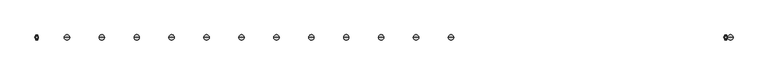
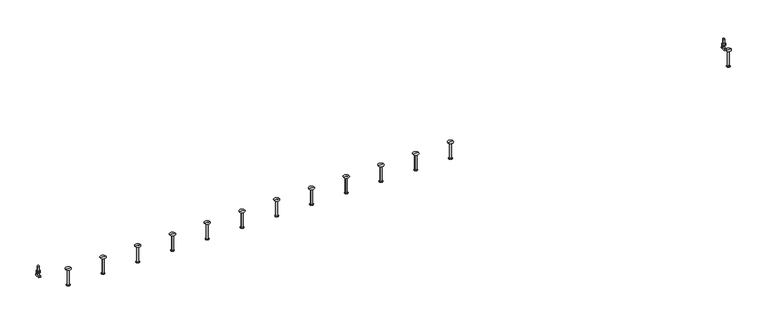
"""IFC4 building model written with IfcOpenShell, lengths in millimetres: fastener geometry, JTA-W JORDAHL® AnchorChannels : JTA-W L=6000 mm."""

from ifc_helpers import new_model, si_unit, point, frame, frame_2d, origin, place, context, project, spatial, polyline, circle_curve, trimmed, segment, composite_curve, outline, extrude, source, transform, mapped, element, save
from ifc_brep_helpers import plane_surface, cylinder_surface, revolved_surface, advanced_brep


def fastener_3b5695ac(model_context):
    return source(origin(), model_context, "Body", "SolidModel", [
        advanced_brep(
        [(3593.0, 0.0, -42.0), (3570.0, 0.0, -42.0), (3616.0, 0.0, -42.0), (3579.0, 0.0, -190.0), (3593.0, 0.0, -190.0), (3607.0, 0.0, -190.0), (3579.0, 0.0, -188.0), (3607.0, 0.0, -188.0), (3585.2, 0.0, -184.4204283), (3600.8, 0.0, -184.4204283), (3585.2, 0.0, -46.0), (3600.8, 0.0, -46.0)],
        [
            (0, 1),
            (1, 2, circle_curve(frame((3593.0, 0.0, -42.0), z_axis=(0.0, 0.0, 1.0), x_axis=(1.0, 0.0, 0.0)), 23.0)),
            (2, 0),
            (2, 1, circle_curve(frame((3593.0, 0.0, -42.0), z_axis=(0.0, 0.0, 1.0), x_axis=(1.0, 0.0, 0.0)), 23.0)),
            (3, 4),
            (4, 5),
            (5, 3, circle_curve(frame((3593.0, 0.0, -190.0), z_axis=(0.0, 0.0, -1.0), x_axis=(1.0, 0.0, 0.0)), 14.0)),
            (3, 5, circle_curve(frame((3593.0, 0.0, -190.0), z_axis=(0.0, 0.0, -1.0), x_axis=(1.0, 0.0, 0.0)), 14.0)),
            (6, 3),
            (5, 7),
            (7, 6, circle_curve(frame((3593.0, 0.0, -188.0), z_axis=(0.0, 0.0, -1.0), x_axis=(1.0, 0.0, 0.0)), 14.0)),
            (6, 7, circle_curve(frame((3593.0, 0.0, -188.0), z_axis=(0.0, 0.0, -1.0), x_axis=(1.0, 0.0, 0.0)), 14.0)),
            (8, 6),
            (7, 9),
            (9, 8, circle_curve(frame((3593.0, 0.0, -184.4204283), z_axis=(0.0, 0.0, -1.0), x_axis=(1.0, 0.0, 0.0)), 7.8)),
            (8, 9, circle_curve(frame((3593.0, 0.0, -184.4204283), z_axis=(0.0, 0.0, -1.0), x_axis=(1.0, 0.0, 0.0)), 7.8)),
            (10, 8),
            (9, 11),
            (11, 10, circle_curve(frame((3593.0, 0.0, -46.0), z_axis=(0.0, 0.0, -1.0), x_axis=(1.0, 0.0, 0.0)), 7.8)),
            (10, 11, circle_curve(frame((3593.0, 0.0, -46.0), z_axis=(0.0, 0.0, -1.0), x_axis=(1.0, 0.0, 0.0)), 7.8)),
            (1, 10),
            (11, 2),
        ],
        [
            plane_surface(frame((3593.0, 0.0, -42.0), z_axis=(0.0, 0.0, 1.0), x_axis=(1.0, 0.0, 0.0))),
            plane_surface(frame((3593.0, 0.0, -190.0), z_axis=(0.0, 0.0, -1.0), x_axis=(1.0, 0.0, 0.0))),
            cylinder_surface(frame((3593.0, 0.0, 2362.3150031), z_axis=(0.0, 0.0, 1.0), x_axis=(1.0, 0.0, 0.0)), 14.0),
            revolved_surface(polyline([(3607.0, 0.0, -188.0), (3600.8, 0.0, -184.4204283)]), (3593.0, 0.0, 2362.3150031), (0.0, 0.0, 1.0)),
            cylinder_surface(frame((3593.0, 0.0, 2362.3150031), z_axis=(0.0, 0.0, 1.0), x_axis=(1.0, 0.0, 0.0)), 7.8),
            revolved_surface(polyline([(3600.8, 0.0, -46.0), (3616.0, 0.0, -42.0)]), (3593.0, 0.0, 2362.3150031), (0.0, 0.0, 1.0)),
        ],
        [
            (0, [[1, 2, 3]]),
            (0, [[-3, 4, -1]]),
            (1, [[5, 6, 7]]),
            (1, [[-6, -5, 8]]),
            (2, [[9, -7, 10, 11]]),
            (2, [[-10, -8, -9, 12]]),
            (3, [[13, -11, 14, 15]]),
            (3, [[-14, -12, -13, 16]]),
            (4, [[17, -15, 18, 19]]),
            (4, [[-18, -16, -17, 20]]),
            (5, [[21, -19, 22, -2]]),
            (5, [[-22, -20, -21, -4]]),
        ],
    ),
        advanced_brep(
        [(3296.5, 0.0, -42.0), (3273.5, 0.0, -42.0), (3319.5, 0.0, -42.0), (3282.5, 0.0, -190.0), (3296.5, 0.0, -190.0), (3310.5, 0.0, -190.0), (3282.5, 0.0, -188.0), (3310.5, 0.0, -188.0), (3288.7, 0.0, -184.4204283), (3304.3, 0.0, -184.4204283), (3288.7, 0.0, -46.0), (3304.3, 0.0, -46.0)],
        [
            (0, 1),
            (1, 2, circle_curve(frame((3296.5, 0.0, -42.0), z_axis=(0.0, 0.0, 1.0), x_axis=(1.0, 0.0, 0.0)), 23.0)),
            (2, 0),
            (2, 1, circle_curve(frame((3296.5, 0.0, -42.0), z_axis=(0.0, 0.0, 1.0), x_axis=(1.0, 0.0, 0.0)), 23.0)),
            (3, 4),
            (4, 5),
            (5, 3, circle_curve(frame((3296.5, 0.0, -190.0), z_axis=(0.0, 0.0, -1.0), x_axis=(1.0, 0.0, 0.0)), 14.0)),
            (3, 5, circle_curve(frame((3296.5, 0.0, -190.0), z_axis=(0.0, 0.0, -1.0), x_axis=(1.0, 0.0, 0.0)), 14.0)),
            (6, 3),
            (5, 7),
            (7, 6, circle_curve(frame((3296.5, 0.0, -188.0), z_axis=(0.0, 0.0, -1.0), x_axis=(1.0, 0.0, 0.0)), 14.0)),
            (6, 7, circle_curve(frame((3296.5, 0.0, -188.0), z_axis=(0.0, 0.0, -1.0), x_axis=(1.0, 0.0, 0.0)), 14.0)),
            (8, 6),
            (7, 9),
            (9, 8, circle_curve(frame((3296.5, 0.0, -184.4204283), z_axis=(0.0, 0.0, -1.0), x_axis=(1.0, 0.0, 0.0)), 7.8)),
            (8, 9, circle_curve(frame((3296.5, 0.0, -184.4204283), z_axis=(0.0, 0.0, -1.0), x_axis=(1.0, 0.0, 0.0)), 7.8)),
            (10, 8),
            (9, 11),
            (11, 10, circle_curve(frame((3296.5, 0.0, -46.0), z_axis=(0.0, 0.0, -1.0), x_axis=(1.0, 0.0, 0.0)), 7.8)),
            (10, 11, circle_curve(frame((3296.5, 0.0, -46.0), z_axis=(0.0, 0.0, -1.0), x_axis=(1.0, 0.0, 0.0)), 7.8)),
            (1, 10),
            (11, 2),
        ],
        [
            plane_surface(frame((3296.5, 0.0, -42.0), z_axis=(0.0, 0.0, 1.0), x_axis=(1.0, 0.0, 0.0))),
            plane_surface(frame((3296.5, 0.0, -190.0), z_axis=(0.0, 0.0, -1.0), x_axis=(1.0, 0.0, 0.0))),
            cylinder_surface(frame((3296.5, 0.0, 2362.3150031), z_axis=(0.0, 0.0, 1.0), x_axis=(1.0, 0.0, 0.0)), 14.0),
            revolved_surface(polyline([(3310.5, 0.0, -188.0), (3304.3, 0.0, -184.4204283)]), (3296.5, 0.0, 2362.3150031), (0.0, 0.0, 1.0)),
            cylinder_surface(frame((3296.5, 0.0, 2362.3150031), z_axis=(0.0, 0.0, 1.0), x_axis=(1.0, 0.0, 0.0)), 7.8),
            revolved_surface(polyline([(3304.3, 0.0, -46.0), (3319.5, 0.0, -42.0)]), (3296.5, 0.0, 2362.3150031), (0.0, 0.0, 1.0)),
        ],
        [
            (0, [[1, 2, 3]]),
            (0, [[-3, 4, -1]]),
            (1, [[5, 6, 7]]),
            (1, [[-6, -5, 8]]),
            (2, [[9, -7, 10, 11]]),
            (2, [[-10, -8, -9, 12]]),
            (3, [[13, -11, 14, 15]]),
            (3, [[-14, -12, -13, 16]]),
            (4, [[17, -15, 18, 19]]),
            (4, [[-18, -16, -17, 20]]),
            (5, [[21, -19, 22, -2]]),
            (5, [[-22, -20, -21, -4]]),
        ],
    ),
        advanced_brep(
        [(3000.0, 0.0, -42.0), (2977.0, 0.0, -42.0), (3023.0, 0.0, -42.0), (2986.0, 0.0, -190.0), (3000.0, 0.0, -190.0), (3014.0, 0.0, -190.0), (2986.0, 0.0, -188.0), (3014.0, 0.0, -188.0), (2992.2, 0.0, -184.4204283), (3007.8, 0.0, -184.4204283), (2992.2, 0.0, -46.0), (3007.8, 0.0, -46.0)],
        [
            (0, 1),
            (1, 2, circle_curve(frame((3000.0, 0.0, -42.0), z_axis=(0.0, 0.0, 1.0), x_axis=(1.0, 0.0, 0.0)), 23.0)),
            (2, 0),
            (2, 1, circle_curve(frame((3000.0, 0.0, -42.0), z_axis=(0.0, 0.0, 1.0), x_axis=(1.0, 0.0, 0.0)), 23.0)),
            (3, 4),
            (4, 5),
            (5, 3, circle_curve(frame((3000.0, 0.0, -190.0), z_axis=(0.0, 0.0, -1.0), x_axis=(1.0, 0.0, 0.0)), 14.0)),
            (3, 5, circle_curve(frame((3000.0, 0.0, -190.0), z_axis=(0.0, 0.0, -1.0), x_axis=(1.0, 0.0, 0.0)), 14.0)),
            (6, 3),
            (5, 7),
            (7, 6, circle_curve(frame((3000.0, 0.0, -188.0), z_axis=(0.0, 0.0, -1.0), x_axis=(1.0, 0.0, 0.0)), 14.0)),
            (6, 7, circle_curve(frame((3000.0, 0.0, -188.0), z_axis=(0.0, 0.0, -1.0), x_axis=(1.0, 0.0, 0.0)), 14.0)),
            (8, 6),
            (7, 9),
            (9, 8, circle_curve(frame((3000.0, 0.0, -184.4204283), z_axis=(0.0, 0.0, -1.0), x_axis=(1.0, 0.0, 0.0)), 7.8)),
            (8, 9, circle_curve(frame((3000.0, 0.0, -184.4204283), z_axis=(0.0, 0.0, -1.0), x_axis=(1.0, 0.0, 0.0)), 7.8)),
            (10, 8),
            (9, 11),
            (11, 10, circle_curve(frame((3000.0, 0.0, -46.0), z_axis=(0.0, 0.0, -1.0), x_axis=(1.0, 0.0, 0.0)), 7.8)),
            (10, 11, circle_curve(frame((3000.0, 0.0, -46.0), z_axis=(0.0, 0.0, -1.0), x_axis=(1.0, 0.0, 0.0)), 7.8)),
            (1, 10),
            (11, 2),
        ],
        [
            plane_surface(frame((3000.0, 0.0, -42.0), z_axis=(0.0, 0.0, 1.0), x_axis=(1.0, 0.0, 0.0))),
            plane_surface(frame((3000.0, 0.0, -190.0), z_axis=(0.0, 0.0, -1.0), x_axis=(1.0, 0.0, 0.0))),
            cylinder_surface(frame((3000.0, 0.0, 2362.3150031), z_axis=(0.0, 0.0, 1.0), x_axis=(1.0, 0.0, 0.0)), 14.0),
            revolved_surface(polyline([(3014.0, 0.0, -188.0), (3007.8, 0.0, -184.4204283)]), (3000.0, 0.0, 2362.3150031), (0.0, 0.0, 1.0)),
            cylinder_surface(frame((3000.0, 0.0, 2362.3150031), z_axis=(0.0, 0.0, 1.0), x_axis=(1.0, 0.0, 0.0)), 7.8),
            revolved_surface(polyline([(3007.8, 0.0, -46.0), (3023.0, 0.0, -42.0)]), (3000.0, 0.0, 2362.3150031), (0.0, 0.0, 1.0)),
        ],
        [
            (0, [[1, 2, 3]]),
            (0, [[-3, 4, -1]]),
            (1, [[5, 6, 7]]),
            (1, [[-6, -5, 8]]),
            (2, [[9, -7, 10, 11]]),
            (2, [[-10, -8, -9, 12]]),
            (3, [[13, -11, 14, 15]]),
            (3, [[-14, -12, -13, 16]]),
            (4, [[17, -15, 18, 19]]),
            (4, [[-18, -16, -17, 20]]),
            (5, [[21, -19, 22, -2]]),
            (5, [[-22, -20, -21, -4]]),
        ],
    ),
        advanced_brep(
        [(2703.5, 0.0, -42.0), (2680.5, 0.0, -42.0), (2726.5, 0.0, -42.0), (2689.5, 0.0, -190.0), (2703.5, 0.0, -190.0), (2717.5, 0.0, -190.0), (2689.5, 0.0, -188.0), (2717.5, 0.0, -188.0), (2695.7, 0.0, -184.4204283), (2711.3, 0.0, -184.4204283), (2695.7, 0.0, -46.0), (2711.3, 0.0, -46.0)],
        [
            (0, 1),
            (1, 2, circle_curve(frame((2703.5, 0.0, -42.0), z_axis=(0.0, 0.0, 1.0), x_axis=(1.0, 0.0, 0.0)), 23.0)),
            (2, 0),
            (2, 1, circle_curve(frame((2703.5, 0.0, -42.0), z_axis=(0.0, 0.0, 1.0), x_axis=(1.0, 0.0, 0.0)), 23.0)),
            (3, 4),
            (4, 5),
            (5, 3, circle_curve(frame((2703.5, 0.0, -190.0), z_axis=(0.0, 0.0, -1.0), x_axis=(1.0, 0.0, 0.0)), 14.0)),
            (3, 5, circle_curve(frame((2703.5, 0.0, -190.0), z_axis=(0.0, 0.0, -1.0), x_axis=(1.0, 0.0, 0.0)), 14.0)),
            (6, 3),
            (5, 7),
            (7, 6, circle_curve(frame((2703.5, 0.0, -188.0), z_axis=(0.0, 0.0, -1.0), x_axis=(1.0, 0.0, 0.0)), 14.0)),
            (6, 7, circle_curve(frame((2703.5, 0.0, -188.0), z_axis=(0.0, 0.0, -1.0), x_axis=(1.0, 0.0, 0.0)), 14.0)),
            (8, 6),
            (7, 9),
            (9, 8, circle_curve(frame((2703.5, 0.0, -184.4204283), z_axis=(0.0, 0.0, -1.0), x_axis=(1.0, 0.0, 0.0)), 7.8)),
            (8, 9, circle_curve(frame((2703.5, 0.0, -184.4204283), z_axis=(0.0, 0.0, -1.0), x_axis=(1.0, 0.0, 0.0)), 7.8)),
            (10, 8),
            (9, 11),
            (11, 10, circle_curve(frame((2703.5, 0.0, -46.0), z_axis=(0.0, 0.0, -1.0), x_axis=(1.0, 0.0, 0.0)), 7.8)),
            (10, 11, circle_curve(frame((2703.5, 0.0, -46.0), z_axis=(0.0, 0.0, -1.0), x_axis=(1.0, 0.0, 0.0)), 7.8)),
            (1, 10),
            (11, 2),
        ],
        [
            plane_surface(frame((2703.5, 0.0, -42.0), z_axis=(0.0, 0.0, 1.0), x_axis=(1.0, 0.0, 0.0))),
            plane_surface(frame((2703.5, 0.0, -190.0), z_axis=(0.0, 0.0, -1.0), x_axis=(1.0, 0.0, 0.0))),
            cylinder_surface(frame((2703.5, 0.0, 2362.3150031), z_axis=(0.0, 0.0, 1.0), x_axis=(1.0, 0.0, 0.0)), 14.0),
            revolved_surface(polyline([(2717.5, 0.0, -188.0), (2711.3, 0.0, -184.4204283)]), (2703.5, 0.0, 2362.3150031), (0.0, 0.0, 1.0)),
            cylinder_surface(frame((2703.5, 0.0, 2362.3150031), z_axis=(0.0, 0.0, 1.0), x_axis=(1.0, 0.0, 0.0)), 7.8),
            revolved_surface(polyline([(2711.3, 0.0, -46.0), (2726.5, 0.0, -42.0)]), (2703.5, 0.0, 2362.3150031), (0.0, 0.0, 1.0)),
        ],
        [
            (0, [[1, 2, 3]]),
            (0, [[-3, 4, -1]]),
            (1, [[5, 6, 7]]),
            (1, [[-6, -5, 8]]),
            (2, [[9, -7, 10, 11]]),
            (2, [[-10, -8, -9, 12]]),
            (3, [[13, -11, 14, 15]]),
            (3, [[-14, -12, -13, 16]]),
            (4, [[17, -15, 18, 19]]),
            (4, [[-18, -16, -17, 20]]),
            (5, [[21, -19, 22, -2]]),
            (5, [[-22, -20, -21, -4]]),
        ],
    ),
        advanced_brep(
        [(2407.0, 0.0, -42.0), (2384.0, 0.0, -42.0), (2430.0, 0.0, -42.0), (2393.0, 0.0, -190.0), (2407.0, 0.0, -190.0), (2421.0, 0.0, -190.0), (2393.0, 0.0, -188.0), (2421.0, 0.0, -188.0), (2399.2, 0.0, -184.4204283), (2414.8, 0.0, -184.4204283), (2399.2, 0.0, -46.0), (2414.8, 0.0, -46.0)],
        [
            (0, 1),
            (1, 2, circle_curve(frame((2407.0, 0.0, -42.0), z_axis=(0.0, 0.0, 1.0), x_axis=(1.0, 0.0, 0.0)), 23.0)),
            (2, 0),
            (2, 1, circle_curve(frame((2407.0, 0.0, -42.0), z_axis=(0.0, 0.0, 1.0), x_axis=(1.0, 0.0, 0.0)), 23.0)),
            (3, 4),
            (4, 5),
            (5, 3, circle_curve(frame((2407.0, 0.0, -190.0), z_axis=(0.0, 0.0, -1.0), x_axis=(1.0, 0.0, 0.0)), 14.0)),
            (3, 5, circle_curve(frame((2407.0, 0.0, -190.0), z_axis=(0.0, 0.0, -1.0), x_axis=(1.0, 0.0, 0.0)), 14.0)),
            (6, 3),
            (5, 7),
            (7, 6, circle_curve(frame((2407.0, 0.0, -188.0), z_axis=(0.0, 0.0, -1.0), x_axis=(1.0, 0.0, 0.0)), 14.0)),
            (6, 7, circle_curve(frame((2407.0, 0.0, -188.0), z_axis=(0.0, 0.0, -1.0), x_axis=(1.0, 0.0, 0.0)), 14.0)),
            (8, 6),
            (7, 9),
            (9, 8, circle_curve(frame((2407.0, 0.0, -184.4204283), z_axis=(0.0, 0.0, -1.0), x_axis=(1.0, 0.0, 0.0)), 7.8)),
            (8, 9, circle_curve(frame((2407.0, 0.0, -184.4204283), z_axis=(0.0, 0.0, -1.0), x_axis=(1.0, 0.0, 0.0)), 7.8)),
            (10, 8),
            (9, 11),
            (11, 10, circle_curve(frame((2407.0, 0.0, -46.0), z_axis=(0.0, 0.0, -1.0), x_axis=(1.0, 0.0, 0.0)), 7.8)),
            (10, 11, circle_curve(frame((2407.0, 0.0, -46.0), z_axis=(0.0, 0.0, -1.0), x_axis=(1.0, 0.0, 0.0)), 7.8)),
            (1, 10),
            (11, 2),
        ],
        [
            plane_surface(frame((2407.0, 0.0, -42.0), z_axis=(0.0, 0.0, 1.0), x_axis=(1.0, 0.0, 0.0))),
            plane_surface(frame((2407.0, 0.0, -190.0), z_axis=(0.0, 0.0, -1.0), x_axis=(1.0, 0.0, 0.0))),
            cylinder_surface(frame((2407.0, 0.0, 2362.3150031), z_axis=(0.0, 0.0, 1.0), x_axis=(1.0, 0.0, 0.0)), 14.0),
            revolved_surface(polyline([(2421.0, 0.0, -188.0), (2414.8, 0.0, -184.4204283)]), (2407.0, 0.0, 2362.3150031), (0.0, 0.0, 1.0)),
            cylinder_surface(frame((2407.0, 0.0, 2362.3150031), z_axis=(0.0, 0.0, 1.0), x_axis=(1.0, 0.0, 0.0)), 7.8),
            revolved_surface(polyline([(2414.8, 0.0, -46.0), (2430.0, 0.0, -42.0)]), (2407.0, 0.0, 2362.3150031), (0.0, 0.0, 1.0)),
        ],
        [
            (0, [[1, 2, 3]]),
            (0, [[-3, 4, -1]]),
            (1, [[5, 6, 7]]),
            (1, [[-6, -5, 8]]),
            (2, [[9, -7, 10, 11]]),
            (2, [[-10, -8, -9, 12]]),
            (3, [[13, -11, 14, 15]]),
            (3, [[-14, -12, -13, 16]]),
            (4, [[17, -15, 18, 19]]),
            (4, [[-18, -16, -17, 20]]),
            (5, [[21, -19, 22, -2]]),
            (5, [[-22, -20, -21, -4]]),
        ],
    ),
        advanced_brep(
        [(2110.5, 0.0, -42.0), (2087.5, 0.0, -42.0), (2133.5, 0.0, -42.0), (2096.5, 0.0, -190.0), (2110.5, 0.0, -190.0), (2124.5, 0.0, -190.0), (2096.5, 0.0, -188.0), (2124.5, 0.0, -188.0), (2102.7, 0.0, -184.4204283), (2118.3, 0.0, -184.4204283), (2102.7, 0.0, -46.0), (2118.3, 0.0, -46.0)],
        [
            (0, 1),
            (1, 2, circle_curve(frame((2110.5, 0.0, -42.0), z_axis=(0.0, 0.0, 1.0), x_axis=(1.0, 0.0, 0.0)), 23.0)),
            (2, 0),
            (2, 1, circle_curve(frame((2110.5, 0.0, -42.0), z_axis=(0.0, 0.0, 1.0), x_axis=(1.0, 0.0, 0.0)), 23.0)),
            (3, 4),
            (4, 5),
            (5, 3, circle_curve(frame((2110.5, 0.0, -190.0), z_axis=(0.0, 0.0, -1.0), x_axis=(1.0, 0.0, 0.0)), 14.0)),
            (3, 5, circle_curve(frame((2110.5, 0.0, -190.0), z_axis=(0.0, 0.0, -1.0), x_axis=(1.0, 0.0, 0.0)), 14.0)),
            (6, 3),
            (5, 7),
            (7, 6, circle_curve(frame((2110.5, 0.0, -188.0), z_axis=(0.0, 0.0, -1.0), x_axis=(1.0, 0.0, 0.0)), 14.0)),
            (6, 7, circle_curve(frame((2110.5, 0.0, -188.0), z_axis=(0.0, 0.0, -1.0), x_axis=(1.0, 0.0, 0.0)), 14.0)),
            (8, 6),
            (7, 9),
            (9, 8, circle_curve(frame((2110.5, 0.0, -184.4204283), z_axis=(0.0, 0.0, -1.0), x_axis=(1.0, 0.0, 0.0)), 7.8)),
            (8, 9, circle_curve(frame((2110.5, 0.0, -184.4204283), z_axis=(0.0, 0.0, -1.0), x_axis=(1.0, 0.0, 0.0)), 7.8)),
            (10, 8),
            (9, 11),
            (11, 10, circle_curve(frame((2110.5, 0.0, -46.0), z_axis=(0.0, 0.0, -1.0), x_axis=(1.0, 0.0, 0.0)), 7.8)),
            (10, 11, circle_curve(frame((2110.5, 0.0, -46.0), z_axis=(0.0, 0.0, -1.0), x_axis=(1.0, 0.0, 0.0)), 7.8)),
            (1, 10),
            (11, 2),
        ],
        [
            plane_surface(frame((2110.5, 0.0, -42.0), z_axis=(0.0, 0.0, 1.0), x_axis=(1.0, 0.0, 0.0))),
            plane_surface(frame((2110.5, 0.0, -190.0), z_axis=(0.0, 0.0, -1.0), x_axis=(1.0, 0.0, 0.0))),
            cylinder_surface(frame((2110.5, 0.0, 2362.3150031), z_axis=(0.0, 0.0, 1.0), x_axis=(1.0, 0.0, 0.0)), 14.0),
            revolved_surface(polyline([(2124.5, 0.0, -188.0), (2118.3, 0.0, -184.4204283)]), (2110.5, 0.0, 2362.3150031), (0.0, 0.0, 1.0)),
            cylinder_surface(frame((2110.5, 0.0, 2362.3150031), z_axis=(0.0, 0.0, 1.0), x_axis=(1.0, 0.0, 0.0)), 7.8),
            revolved_surface(polyline([(2118.3, 0.0, -46.0), (2133.5, 0.0, -42.0)]), (2110.5, 0.0, 2362.3150031), (0.0, 0.0, 1.0)),
        ],
        [
            (0, [[1, 2, 3]]),
            (0, [[-3, 4, -1]]),
            (1, [[5, 6, 7]]),
            (1, [[-6, -5, 8]]),
            (2, [[9, -7, 10, 11]]),
            (2, [[-10, -8, -9, 12]]),
            (3, [[13, -11, 14, 15]]),
            (3, [[-14, -12, -13, 16]]),
            (4, [[17, -15, 18, 19]]),
            (4, [[-18, -16, -17, 20]]),
            (5, [[21, -19, 22, -2]]),
            (5, [[-22, -20, -21, -4]]),
        ],
    ),
        advanced_brep(
        [(1814.0, 0.0, -42.0), (1791.0, 0.0, -42.0), (1837.0, 0.0, -42.0), (1800.0, 0.0, -190.0), (1814.0, 0.0, -190.0), (1828.0, 0.0, -190.0), (1800.0, 0.0, -188.0), (1828.0, 0.0, -188.0), (1806.2, 0.0, -184.4204283), (1821.8, 0.0, -184.4204283), (1806.2, 0.0, -46.0), (1821.8, 0.0, -46.0)],
        [
            (0, 1),
            (1, 2, circle_curve(frame((1814.0, 0.0, -42.0), z_axis=(0.0, 0.0, 1.0), x_axis=(1.0, 0.0, 0.0)), 23.0)),
            (2, 0),
            (2, 1, circle_curve(frame((1814.0, 0.0, -42.0), z_axis=(0.0, 0.0, 1.0), x_axis=(1.0, 0.0, 0.0)), 23.0)),
            (3, 4),
            (4, 5),
            (5, 3, circle_curve(frame((1814.0, 0.0, -190.0), z_axis=(0.0, 0.0, -1.0), x_axis=(1.0, 0.0, 0.0)), 14.0)),
            (3, 5, circle_curve(frame((1814.0, 0.0, -190.0), z_axis=(0.0, 0.0, -1.0), x_axis=(1.0, 0.0, 0.0)), 14.0)),
            (6, 3),
            (5, 7),
            (7, 6, circle_curve(frame((1814.0, 0.0, -188.0), z_axis=(0.0, 0.0, -1.0), x_axis=(1.0, 0.0, 0.0)), 14.0)),
            (6, 7, circle_curve(frame((1814.0, 0.0, -188.0), z_axis=(0.0, 0.0, -1.0), x_axis=(1.0, 0.0, 0.0)), 14.0)),
            (8, 6),
            (7, 9),
            (9, 8, circle_curve(frame((1814.0, 0.0, -184.4204283), z_axis=(0.0, 0.0, -1.0), x_axis=(1.0, 0.0, 0.0)), 7.8)),
            (8, 9, circle_curve(frame((1814.0, 0.0, -184.4204283), z_axis=(0.0, 0.0, -1.0), x_axis=(1.0, 0.0, 0.0)), 7.8)),
            (10, 8),
            (9, 11),
            (11, 10, circle_curve(frame((1814.0, 0.0, -46.0), z_axis=(0.0, 0.0, -1.0), x_axis=(1.0, 0.0, 0.0)), 7.8)),
            (10, 11, circle_curve(frame((1814.0, 0.0, -46.0), z_axis=(0.0, 0.0, -1.0), x_axis=(1.0, 0.0, 0.0)), 7.8)),
            (1, 10),
            (11, 2),
        ],
        [
            plane_surface(frame((1814.0, 0.0, -42.0), z_axis=(0.0, 0.0, 1.0), x_axis=(1.0, 0.0, 0.0))),
            plane_surface(frame((1814.0, 0.0, -190.0), z_axis=(0.0, 0.0, -1.0), x_axis=(1.0, 0.0, 0.0))),
            cylinder_surface(frame((1814.0, 0.0, 2362.3150031), z_axis=(0.0, 0.0, 1.0), x_axis=(1.0, 0.0, 0.0)), 14.0),
            revolved_surface(polyline([(1828.0, 0.0, -188.0), (1821.8, 0.0, -184.4204283)]), (1814.0, 0.0, 2362.3150031), (0.0, 0.0, 1.0)),
            cylinder_surface(frame((1814.0, 0.0, 2362.3150031), z_axis=(0.0, 0.0, 1.0), x_axis=(1.0, 0.0, 0.0)), 7.8),
            revolved_surface(polyline([(1821.8, 0.0, -46.0), (1837.0, 0.0, -42.0)]), (1814.0, 0.0, 2362.3150031), (0.0, 0.0, 1.0)),
        ],
        [
            (0, [[1, 2, 3]]),
            (0, [[-3, 4, -1]]),
            (1, [[5, 6, 7]]),
            (1, [[-6, -5, 8]]),
            (2, [[9, -7, 10, 11]]),
            (2, [[-10, -8, -9, 12]]),
            (3, [[13, -11, 14, 15]]),
            (3, [[-14, -12, -13, 16]]),
            (4, [[17, -15, 18, 19]]),
            (4, [[-18, -16, -17, 20]]),
            (5, [[21, -19, 22, -2]]),
            (5, [[-22, -20, -21, -4]]),
        ],
    ),
        advanced_brep(
        [(1517.5, 0.0, -42.0), (1494.5, 0.0, -42.0), (1540.5, 0.0, -42.0), (1503.5, 0.0, -190.0), (1517.5, 0.0, -190.0), (1531.5, 0.0, -190.0), (1503.5, 0.0, -188.0), (1531.5, 0.0, -188.0), (1509.7, 0.0, -184.4204283), (1525.3, 0.0, -184.4204283), (1509.7, 0.0, -46.0), (1525.3, 0.0, -46.0)],
        [
            (0, 1),
            (1, 2, circle_curve(frame((1517.5, 0.0, -42.0), z_axis=(0.0, 0.0, 1.0), x_axis=(1.0, 0.0, 0.0)), 23.0)),
            (2, 0),
            (2, 1, circle_curve(frame((1517.5, 0.0, -42.0), z_axis=(0.0, 0.0, 1.0), x_axis=(1.0, 0.0, 0.0)), 23.0)),
            (3, 4),
            (4, 5),
            (5, 3, circle_curve(frame((1517.5, 0.0, -190.0), z_axis=(0.0, 0.0, -1.0), x_axis=(1.0, 0.0, 0.0)), 14.0)),
            (3, 5, circle_curve(frame((1517.5, 0.0, -190.0), z_axis=(0.0, 0.0, -1.0), x_axis=(1.0, 0.0, 0.0)), 14.0)),
            (6, 3),
            (5, 7),
            (7, 6, circle_curve(frame((1517.5, 0.0, -188.0), z_axis=(0.0, 0.0, -1.0), x_axis=(1.0, 0.0, 0.0)), 14.0)),
            (6, 7, circle_curve(frame((1517.5, 0.0, -188.0), z_axis=(0.0, 0.0, -1.0), x_axis=(1.0, 0.0, 0.0)), 14.0)),
            (8, 6),
            (7, 9),
            (9, 8, circle_curve(frame((1517.5, 0.0, -184.4204283), z_axis=(0.0, 0.0, -1.0), x_axis=(1.0, 0.0, 0.0)), 7.8)),
            (8, 9, circle_curve(frame((1517.5, 0.0, -184.4204283), z_axis=(0.0, 0.0, -1.0), x_axis=(1.0, 0.0, 0.0)), 7.8)),
            (10, 8),
            (9, 11),
            (11, 10, circle_curve(frame((1517.5, 0.0, -46.0), z_axis=(0.0, 0.0, -1.0), x_axis=(1.0, 0.0, 0.0)), 7.8)),
            (10, 11, circle_curve(frame((1517.5, 0.0, -46.0), z_axis=(0.0, 0.0, -1.0), x_axis=(1.0, 0.0, 0.0)), 7.8)),
            (1, 10),
            (11, 2),
        ],
        [
            plane_surface(frame((1517.5, 0.0, -42.0), z_axis=(0.0, 0.0, 1.0), x_axis=(1.0, 0.0, 0.0))),
            plane_surface(frame((1517.5, 0.0, -190.0), z_axis=(0.0, 0.0, -1.0), x_axis=(1.0, 0.0, 0.0))),
            cylinder_surface(frame((1517.5, 0.0, 2362.3150031), z_axis=(0.0, 0.0, 1.0), x_axis=(1.0, 0.0, 0.0)), 14.0),
            revolved_surface(polyline([(1531.5, 0.0, -188.0), (1525.3, 0.0, -184.4204283)]), (1517.5, 0.0, 2362.3150031), (0.0, 0.0, 1.0)),
            cylinder_surface(frame((1517.5, 0.0, 2362.3150031), z_axis=(0.0, 0.0, 1.0), x_axis=(1.0, 0.0, 0.0)), 7.8),
            revolved_surface(polyline([(1525.3, 0.0, -46.0), (1540.5, 0.0, -42.0)]), (1517.5, 0.0, 2362.3150031), (0.0, 0.0, 1.0)),
        ],
        [
            (0, [[1, 2, 3]]),
            (0, [[-3, 4, -1]]),
            (1, [[5, 6, 7]]),
            (1, [[-6, -5, 8]]),
            (2, [[9, -7, 10, 11]]),
            (2, [[-10, -8, -9, 12]]),
            (3, [[13, -11, 14, 15]]),
            (3, [[-14, -12, -13, 16]]),
            (4, [[17, -15, 18, 19]]),
            (4, [[-18, -16, -17, 20]]),
            (5, [[21, -19, 22, -2]]),
            (5, [[-22, -20, -21, -4]]),
        ],
    ),
        advanced_brep(
        [(1221.0, 0.0, -42.0), (1198.0, 0.0, -42.0), (1244.0, 0.0, -42.0), (1207.0, 0.0, -190.0), (1221.0, 0.0, -190.0), (1235.0, 0.0, -190.0), (1207.0, 0.0, -188.0), (1235.0, 0.0, -188.0), (1213.2, 0.0, -184.4204283), (1228.8, 0.0, -184.4204283), (1213.2, 0.0, -46.0), (1228.8, 0.0, -46.0)],
        [
            (0, 1),
            (1, 2, circle_curve(frame((1221.0, 0.0, -42.0), z_axis=(0.0, 0.0, 1.0), x_axis=(1.0, 0.0, 0.0)), 23.0)),
            (2, 0),
            (2, 1, circle_curve(frame((1221.0, 0.0, -42.0), z_axis=(0.0, 0.0, 1.0), x_axis=(1.0, 0.0, 0.0)), 23.0)),
            (3, 4),
            (4, 5),
            (5, 3, circle_curve(frame((1221.0, 0.0, -190.0), z_axis=(0.0, 0.0, -1.0), x_axis=(1.0, 0.0, 0.0)), 14.0)),
            (3, 5, circle_curve(frame((1221.0, 0.0, -190.0), z_axis=(0.0, 0.0, -1.0), x_axis=(1.0, 0.0, 0.0)), 14.0)),
            (6, 3),
            (5, 7),
            (7, 6, circle_curve(frame((1221.0, 0.0, -188.0), z_axis=(0.0, 0.0, -1.0), x_axis=(1.0, 0.0, 0.0)), 14.0)),
            (6, 7, circle_curve(frame((1221.0, 0.0, -188.0), z_axis=(0.0, 0.0, -1.0), x_axis=(1.0, 0.0, 0.0)), 14.0)),
            (8, 6),
            (7, 9),
            (9, 8, circle_curve(frame((1221.0, 0.0, -184.4204283), z_axis=(0.0, 0.0, -1.0), x_axis=(1.0, 0.0, 0.0)), 7.8)),
            (8, 9, circle_curve(frame((1221.0, 0.0, -184.4204283), z_axis=(0.0, 0.0, -1.0), x_axis=(1.0, 0.0, 0.0)), 7.8)),
            (10, 8),
            (9, 11),
            (11, 10, circle_curve(frame((1221.0, 0.0, -46.0), z_axis=(0.0, 0.0, -1.0), x_axis=(1.0, 0.0, 0.0)), 7.8)),
            (10, 11, circle_curve(frame((1221.0, 0.0, -46.0), z_axis=(0.0, 0.0, -1.0), x_axis=(1.0, 0.0, 0.0)), 7.8)),
            (1, 10),
            (11, 2),
        ],
        [
            plane_surface(frame((1221.0, 0.0, -42.0), z_axis=(0.0, 0.0, 1.0), x_axis=(1.0, 0.0, 0.0))),
            plane_surface(frame((1221.0, 0.0, -190.0), z_axis=(0.0, 0.0, -1.0), x_axis=(1.0, 0.0, 0.0))),
            cylinder_surface(frame((1221.0, 0.0, 2362.3150031), z_axis=(0.0, 0.0, 1.0), x_axis=(1.0, 0.0, 0.0)), 14.0),
            revolved_surface(polyline([(1235.0, 0.0, -188.0), (1228.8, 0.0, -184.4204283)]), (1221.0, 0.0, 2362.3150031), (0.0, 0.0, 1.0)),
            cylinder_surface(frame((1221.0, 0.0, 2362.3150031), z_axis=(0.0, 0.0, 1.0), x_axis=(1.0, 0.0, 0.0)), 7.8),
            revolved_surface(polyline([(1228.8, 0.0, -46.0), (1244.0, 0.0, -42.0)]), (1221.0, 0.0, 2362.3150031), (0.0, 0.0, 1.0)),
        ],
        [
            (0, [[1, 2, 3]]),
            (0, [[-3, 4, -1]]),
            (1, [[5, 6, 7]]),
            (1, [[-6, -5, 8]]),
            (2, [[9, -7, 10, 11]]),
            (2, [[-10, -8, -9, 12]]),
            (3, [[13, -11, 14, 15]]),
            (3, [[-14, -12, -13, 16]]),
            (4, [[17, -15, 18, 19]]),
            (4, [[-18, -16, -17, 20]]),
            (5, [[21, -19, 22, -2]]),
            (5, [[-22, -20, -21, -4]]),
        ],
    ),
        advanced_brep(
        [(924.5, 0.0, -42.0), (901.5, 0.0, -42.0), (947.5, 0.0, -42.0), (910.5, 0.0, -190.0), (924.5, 0.0, -190.0), (938.5, 0.0, -190.0), (910.5, 0.0, -188.0), (938.5, 0.0, -188.0), (916.7, 0.0, -184.4204283), (932.3, 0.0, -184.4204283), (916.7, 0.0, -46.0), (932.3, 0.0, -46.0)],
        [
            (0, 1),
            (1, 2, circle_curve(frame((924.5, 0.0, -42.0), z_axis=(0.0, 0.0, 1.0), x_axis=(1.0, 0.0, 0.0)), 23.0)),
            (2, 0),
            (2, 1, circle_curve(frame((924.5, 0.0, -42.0), z_axis=(0.0, 0.0, 1.0), x_axis=(1.0, 0.0, 0.0)), 23.0)),
            (3, 4),
            (4, 5),
            (5, 3, circle_curve(frame((924.5, 0.0, -190.0), z_axis=(0.0, 0.0, -1.0), x_axis=(1.0, 0.0, 0.0)), 14.0)),
            (3, 5, circle_curve(frame((924.5, 0.0, -190.0), z_axis=(0.0, 0.0, -1.0), x_axis=(1.0, 0.0, 0.0)), 14.0)),
            (6, 3),
            (5, 7),
            (7, 6, circle_curve(frame((924.5, 0.0, -188.0), z_axis=(0.0, 0.0, -1.0), x_axis=(1.0, 0.0, 0.0)), 14.0)),
            (6, 7, circle_curve(frame((924.5, 0.0, -188.0), z_axis=(0.0, 0.0, -1.0), x_axis=(1.0, 0.0, 0.0)), 14.0)),
            (8, 6),
            (7, 9),
            (9, 8, circle_curve(frame((924.5, 0.0, -184.4204283), z_axis=(0.0, 0.0, -1.0), x_axis=(1.0, 0.0, 0.0)), 7.8)),
            (8, 9, circle_curve(frame((924.5, 0.0, -184.4204283), z_axis=(0.0, 0.0, -1.0), x_axis=(1.0, 0.0, 0.0)), 7.8)),
            (10, 8),
            (9, 11),
            (11, 10, circle_curve(frame((924.5, 0.0, -46.0), z_axis=(0.0, 0.0, -1.0), x_axis=(1.0, 0.0, 0.0)), 7.8)),
            (10, 11, circle_curve(frame((924.5, 0.0, -46.0), z_axis=(0.0, 0.0, -1.0), x_axis=(1.0, 0.0, 0.0)), 7.8)),
            (1, 10),
            (11, 2),
        ],
        [
            plane_surface(frame((924.5, 0.0, -42.0), z_axis=(0.0, 0.0, 1.0), x_axis=(1.0, 0.0, 0.0))),
            plane_surface(frame((924.5, 0.0, -190.0), z_axis=(0.0, 0.0, -1.0), x_axis=(1.0, 0.0, 0.0))),
            cylinder_surface(frame((924.5, 0.0, 2362.3150031), z_axis=(0.0, 0.0, 1.0), x_axis=(1.0, 0.0, 0.0)), 14.0),
            revolved_surface(polyline([(938.5, 0.0, -188.0), (932.3, 0.0, -184.4204283)]), (924.5, 0.0, 2362.3150031), (0.0, 0.0, 1.0)),
            cylinder_surface(frame((924.5, 0.0, 2362.3150031), z_axis=(0.0, 0.0, 1.0), x_axis=(1.0, 0.0, 0.0)), 7.8),
            revolved_surface(polyline([(932.3, 0.0, -46.0), (947.5, 0.0, -42.0)]), (924.5, 0.0, 2362.3150031), (0.0, 0.0, 1.0)),
        ],
        [
            (0, [[1, 2, 3]]),
            (0, [[-3, 4, -1]]),
            (1, [[5, 6, 7]]),
            (1, [[-6, -5, 8]]),
            (2, [[9, -7, 10, 11]]),
            (2, [[-10, -8, -9, 12]]),
            (3, [[13, -11, 14, 15]]),
            (3, [[-14, -12, -13, 16]]),
            (4, [[17, -15, 18, 19]]),
            (4, [[-18, -16, -17, 20]]),
            (5, [[21, -19, 22, -2]]),
            (5, [[-22, -20, -21, -4]]),
        ],
    ),
        advanced_brep(
        [(628.0, 0.0, -42.0), (605.0, 0.0, -42.0), (651.0, 0.0, -42.0), (614.0, 0.0, -190.0), (628.0, 0.0, -190.0), (642.0, 0.0, -190.0), (614.0, 0.0, -188.0), (642.0, 0.0, -188.0), (620.2, 0.0, -184.4204283), (635.8, 0.0, -184.4204283), (620.2, 0.0, -46.0), (635.8, 0.0, -46.0)],
        [
            (0, 1),
            (1, 2, circle_curve(frame((628.0, 0.0, -42.0), z_axis=(0.0, 0.0, 1.0), x_axis=(1.0, 0.0, 0.0)), 23.0)),
            (2, 0),
            (2, 1, circle_curve(frame((628.0, 0.0, -42.0), z_axis=(0.0, 0.0, 1.0), x_axis=(1.0, 0.0, 0.0)), 23.0)),
            (3, 4),
            (4, 5),
            (5, 3, circle_curve(frame((628.0, 0.0, -190.0), z_axis=(0.0, 0.0, -1.0), x_axis=(1.0, 0.0, 0.0)), 14.0)),
            (3, 5, circle_curve(frame((628.0, 0.0, -190.0), z_axis=(0.0, 0.0, -1.0), x_axis=(1.0, 0.0, 0.0)), 14.0)),
            (6, 3),
            (5, 7),
            (7, 6, circle_curve(frame((628.0, 0.0, -188.0), z_axis=(0.0, 0.0, -1.0), x_axis=(1.0, 0.0, 0.0)), 14.0)),
            (6, 7, circle_curve(frame((628.0, 0.0, -188.0), z_axis=(0.0, 0.0, -1.0), x_axis=(1.0, 0.0, 0.0)), 14.0)),
            (8, 6),
            (7, 9),
            (9, 8, circle_curve(frame((628.0, 0.0, -184.4204283), z_axis=(0.0, 0.0, -1.0), x_axis=(1.0, 0.0, 0.0)), 7.8)),
            (8, 9, circle_curve(frame((628.0, 0.0, -184.4204283), z_axis=(0.0, 0.0, -1.0), x_axis=(1.0, 0.0, 0.0)), 7.8)),
            (10, 8),
            (9, 11),
            (11, 10, circle_curve(frame((628.0, 0.0, -46.0), z_axis=(0.0, 0.0, -1.0), x_axis=(1.0, 0.0, 0.0)), 7.8)),
            (10, 11, circle_curve(frame((628.0, 0.0, -46.0), z_axis=(0.0, 0.0, -1.0), x_axis=(1.0, 0.0, 0.0)), 7.8)),
            (1, 10),
            (11, 2),
        ],
        [
            plane_surface(frame((628.0, 0.0, -42.0), z_axis=(0.0, 0.0, 1.0), x_axis=(1.0, 0.0, 0.0))),
            plane_surface(frame((628.0, 0.0, -190.0), z_axis=(0.0, 0.0, -1.0), x_axis=(1.0, 0.0, 0.0))),
            cylinder_surface(frame((628.0, 0.0, 2362.3150031), z_axis=(0.0, 0.0, 1.0), x_axis=(1.0, 0.0, 0.0)), 14.0),
            revolved_surface(polyline([(642.0, 0.0, -188.0), (635.8, 0.0, -184.4204283)]), (628.0, 0.0, 2362.3150031), (0.0, 0.0, 1.0)),
            cylinder_surface(frame((628.0, 0.0, 2362.3150031), z_axis=(0.0, 0.0, 1.0), x_axis=(1.0, 0.0, 0.0)), 7.8),
            revolved_surface(polyline([(635.8, 0.0, -46.0), (651.0, 0.0, -42.0)]), (628.0, 0.0, 2362.3150031), (0.0, 0.0, 1.0)),
        ],
        [
            (0, [[1, 2, 3]]),
            (0, [[-3, 4, -1]]),
            (1, [[5, 6, 7]]),
            (1, [[-6, -5, 8]]),
            (2, [[9, -7, 10, 11]]),
            (2, [[-10, -8, -9, 12]]),
            (3, [[13, -11, 14, 15]]),
            (3, [[-14, -12, -13, 16]]),
            (4, [[17, -15, 18, 19]]),
            (4, [[-18, -16, -17, 20]]),
            (5, [[21, -19, 22, -2]]),
            (5, [[-22, -20, -21, -4]]),
        ],
    ),
        advanced_brep(
        [(331.5, 0.0, -42.0), (308.5, 0.0, -42.0), (354.5, 0.0, -42.0), (317.5, 0.0, -190.0), (331.5, 0.0, -190.0), (345.5, 0.0, -190.0), (317.5, 0.0, -188.0), (345.5, 0.0, -188.0), (323.7, 0.0, -184.4204283), (339.3, 0.0, -184.4204283), (323.7, 0.0, -46.0), (339.3, 0.0, -46.0)],
        [
            (0, 1),
            (1, 2, circle_curve(frame((331.5, 0.0, -42.0), z_axis=(0.0, 0.0, 1.0), x_axis=(1.0, 0.0, 0.0)), 23.0)),
            (2, 0),
            (2, 1, circle_curve(frame((331.5, 0.0, -42.0), z_axis=(0.0, 0.0, 1.0), x_axis=(1.0, 0.0, 0.0)), 23.0)),
            (3, 4),
            (4, 5),
            (5, 3, circle_curve(frame((331.5, 0.0, -190.0), z_axis=(0.0, 0.0, -1.0), x_axis=(1.0, 0.0, 0.0)), 14.0)),
            (3, 5, circle_curve(frame((331.5, 0.0, -190.0), z_axis=(0.0, 0.0, -1.0), x_axis=(1.0, 0.0, 0.0)), 14.0)),
            (6, 3),
            (5, 7),
            (7, 6, circle_curve(frame((331.5, 0.0, -188.0), z_axis=(0.0, 0.0, -1.0), x_axis=(1.0, 0.0, 0.0)), 14.0)),
            (6, 7, circle_curve(frame((331.5, 0.0, -188.0), z_axis=(0.0, 0.0, -1.0), x_axis=(1.0, 0.0, 0.0)), 14.0)),
            (8, 6),
            (7, 9),
            (9, 8, circle_curve(frame((331.5, 0.0, -184.4204283), z_axis=(0.0, 0.0, -1.0), x_axis=(1.0, 0.0, 0.0)), 7.8)),
            (8, 9, circle_curve(frame((331.5, 0.0, -184.4204283), z_axis=(0.0, 0.0, -1.0), x_axis=(1.0, 0.0, 0.0)), 7.8)),
            (10, 8),
            (9, 11),
            (11, 10, circle_curve(frame((331.5, 0.0, -46.0), z_axis=(0.0, 0.0, -1.0), x_axis=(1.0, 0.0, 0.0)), 7.8)),
            (10, 11, circle_curve(frame((331.5, 0.0, -46.0), z_axis=(0.0, 0.0, -1.0), x_axis=(1.0, 0.0, 0.0)), 7.8)),
            (1, 10),
            (11, 2),
        ],
        [
            plane_surface(frame((331.5, 0.0, -42.0), z_axis=(0.0, 0.0, 1.0), x_axis=(1.0, 0.0, 0.0))),
            plane_surface(frame((331.5, 0.0, -190.0), z_axis=(0.0, 0.0, -1.0), x_axis=(1.0, 0.0, 0.0))),
            cylinder_surface(frame((331.5, 0.0, 2362.3150031), z_axis=(0.0, 0.0, 1.0), x_axis=(1.0, 0.0, 0.0)), 14.0),
            revolved_surface(polyline([(345.5, 0.0, -188.0), (339.3, 0.0, -184.4204283)]), (331.5, 0.0, 2362.3150031), (0.0, 0.0, 1.0)),
            cylinder_surface(frame((331.5, 0.0, 2362.3150031), z_axis=(0.0, 0.0, 1.0), x_axis=(1.0, 0.0, 0.0)), 7.8),
            revolved_surface(polyline([(339.3, 0.0, -46.0), (354.5, 0.0, -42.0)]), (331.5, 0.0, 2362.3150031), (0.0, 0.0, 1.0)),
        ],
        [
            (0, [[1, 2, 3]]),
            (0, [[-3, 4, -1]]),
            (1, [[5, 6, 7]]),
            (1, [[-6, -5, 8]]),
            (2, [[9, -7, 10, 11]]),
            (2, [[-10, -8, -9, 12]]),
            (3, [[13, -11, 14, 15]]),
            (3, [[-14, -12, -13, 16]]),
            (4, [[17, -15, 18, 19]]),
            (4, [[-18, -16, -17, 20]]),
            (5, [[21, -19, 22, -2]]),
            (5, [[-22, -20, -21, -4]]),
        ],
    ),
        extrude(outline(polyline([(5925.0, -13.8564065), (5913.0, -6.9282032), (5913.0, 6.9282032), (5925.0, 13.8564065), (5937.0, 6.9282032), (5937.0, -6.9282032), (5925.0, -13.8564065)]), holes=[composite_curve([segment(trimmed(circle_curve(frame_2d((5925.0, 0.0)), 8.0), [point((5917.0, 0.0))], [point((5933.0, 0.0))], True, "CARTESIAN"), True, "CONTINUOUS"), segment(trimmed(circle_curve(frame_2d((5925.0, 0.0)), 8.0), [point((5933.0, 0.0))], [point((5917.0, 0.0))], True, "CARTESIAN"), True, "CONTINUOUS")], self_intersect=False)]), frame((0.0, 0.0, 18.0), z_axis=(0.0, 0.0, 1.0), x_axis=(1.0, 0.0, 0.0)), (0.0, 0.0, 1.0), 14.8),
        extrude(outline(composite_curve([segment(trimmed(circle_curve(frame_2d((5925.0, 0.0)), 15.0), [point((5910.0, 0.0))], [point((5940.0, 0.0))], False, "CARTESIAN"), True, "CONTINUOUS"), segment(trimmed(circle_curve(frame_2d((5925.0, 0.0)), 15.0), [point((5940.0, 0.0))], [point((5910.0, 0.0))], False, "CARTESIAN"), True, "CONTINUOUS")], self_intersect=False), holes=[composite_curve([segment(trimmed(circle_curve(frame_2d((5925.0, 0.0)), 8.5), [point((5916.5, 0.0))], [point((5933.5, 0.0))], True, "CARTESIAN"), True, "CONTINUOUS"), segment(trimmed(circle_curve(frame_2d((5925.0, 0.0)), 8.5), [point((5933.5, 0.0))], [point((5916.5, 0.0))], True, "CARTESIAN"), True, "CONTINUOUS")], self_intersect=False)]), frame((0.0, 0.0, 15.0), z_axis=(0.0, 0.0, 1.0), x_axis=(1.0, 0.0, 0.0)), (0.0, 0.0, 1.0), 3.0),
        extrude(outline(polyline([(75.0, -13.8564065), (63.0, -6.9282032), (63.0, 6.9282032), (75.0, 13.8564065), (87.0, 6.9282032), (87.0, -6.9282032), (75.0, -13.8564065)]), holes=[composite_curve([segment(trimmed(circle_curve(frame_2d((75.0, 0.0)), 8.0), [point((67.0, 0.0))], [point((83.0, 0.0))], True, "CARTESIAN"), True, "CONTINUOUS"), segment(trimmed(circle_curve(frame_2d((75.0, 0.0)), 8.0), [point((83.0, 0.0))], [point((67.0, 0.0))], True, "CARTESIAN"), True, "CONTINUOUS")], self_intersect=False)]), frame((0.0, 0.0, 18.0), z_axis=(0.0, 0.0, 1.0), x_axis=(1.0, 0.0, 0.0)), (0.0, 0.0, 1.0), 14.8),
        extrude(outline(composite_curve([segment(trimmed(circle_curve(frame_2d((75.0, 0.0)), 15.0), [point((60.0, 0.0))], [point((90.0, 0.0))], False, "CARTESIAN"), True, "CONTINUOUS"), segment(trimmed(circle_curve(frame_2d((75.0, 0.0)), 15.0), [point((90.0, 0.0))], [point((60.0, 0.0))], False, "CARTESIAN"), True, "CONTINUOUS")], self_intersect=False), holes=[composite_curve([segment(trimmed(circle_curve(frame_2d((75.0, 0.0)), 8.5), [point((66.5, 0.0))], [point((83.5, 0.0))], True, "CARTESIAN"), True, "CONTINUOUS"), segment(trimmed(circle_curve(frame_2d((75.0, 0.0)), 8.5), [point((83.5, 0.0))], [point((66.5, 0.0))], True, "CARTESIAN"), True, "CONTINUOUS")], self_intersect=False)]), frame((0.0, 0.0, 15.0), z_axis=(0.0, 0.0, 1.0), x_axis=(1.0, 0.0, 0.0)), (0.0, 0.0, 1.0), 3.0),
        advanced_brep(
        [(5933.5, -20.7, -10.0), (5933.5, -20.7, -21.0), (5933.5, 20.7, -21.0), (5933.5, 20.7, -10.0), (5916.5, -20.7, -10.0), (5916.5, 20.7, -10.0), (5916.5, 20.7, -21.0), (5916.5, -20.7, -21.0), (5933.0, 0.0, -10.0), (5917.0, 0.0, -10.0), (5917.0, 0.0, 70.0), (5933.0, 0.0, 70.0)],
        [
            (0, 1),
            (1, 2),
            (2, 3),
            (3, 0),
            (4, 5),
            (5, 6),
            (6, 7),
            (7, 4),
            (3, 5),
            (4, 0),
            (8, 9, circle_curve(frame((5925.0, 0.0, -10.0), z_axis=(0.0, 0.0, -1.0), x_axis=(1.0, 0.0, 0.0)), 8.0)),
            (9, 8, circle_curve(frame((5925.0, 0.0, -10.0), z_axis=(0.0, 0.0, -1.0), x_axis=(1.0, 0.0, 0.0)), 8.0)),
            (2, 6),
            (1, 7),
            (10, 11, circle_curve(frame((5925.0, 0.0, 70.0), z_axis=(0.0, 0.0, 1.0), x_axis=(1.0, 0.0, 0.0)), 8.0)),
            (11, 10, circle_curve(frame((5925.0, 0.0, 70.0), z_axis=(0.0, 0.0, 1.0), x_axis=(1.0, 0.0, 0.0)), 8.0)),
            (11, 8),
            (9, 10),
        ],
        [
            plane_surface(frame((5933.5, 20.7, -10.0), z_axis=(1.0, 0.0, 0.0), x_axis=(0.0, 1.0, 0.0))),
            plane_surface(frame((5916.5, 20.7, -10.0), z_axis=(-1.0, 0.0, 0.0), x_axis=(0.0, -1.0, 0.0))),
            plane_surface(frame((5933.5, -20.7, -10.0), z_axis=(0.0, 0.0, 1.0), x_axis=(-1.0, 0.0, 0.0))),
            plane_surface(frame((5933.5, 20.7, -10.0), z_axis=(0.0, 1.0, 0.0), x_axis=(-1.0, 0.0, 0.0))),
            plane_surface(frame((5933.5, 20.7, -21.0), z_axis=(0.0, 0.0, -1.0), x_axis=(-1.0, 0.0, 0.0))),
            plane_surface(frame((5933.5, -20.7, -21.0), z_axis=(0.0, -1.0, 0.0), x_axis=(-1.0, 0.0, 0.0))),
            plane_surface(frame((5933.0, 0.0, 70.0), z_axis=(0.0, 0.0, 1.0), x_axis=(0.0, -1.0, 0.0))),
            cylinder_surface(frame((5925.0, 0.0, -10.0), z_axis=(0.0, 0.0, 1.0), x_axis=(1.0, 0.0, 0.0)), 8.0),
        ],
        [
            (0, [[1, 2, 3, 4]]),
            (1, [[5, 6, 7, 8]]),
            (2, [[9, -5, 10, -4], [11, 12]]),
            (3, [[13, -6, -9, -3]]),
            (4, [[14, -7, -13, -2]]),
            (5, [[-10, -8, -14, -1]]),
            (6, [[15, 16]]),
            (7, [[17, -12, 18, -16]]),
            (7, [[-18, -11, -17, -15]]),
        ],
    ),
        advanced_brep(
        [(83.5, -20.7, -10.0), (83.5, -20.7, -21.0), (83.5, 20.7, -21.0), (83.5, 20.7, -10.0), (66.5, -20.7, -10.0), (66.5, 20.7, -10.0), (66.5, 20.7, -21.0), (66.5, -20.7, -21.0), (83.0, 0.0, -10.0), (67.0, 0.0, -10.0), (67.0, 0.0, 70.0), (83.0, 0.0, 70.0)],
        [
            (0, 1),
            (1, 2),
            (2, 3),
            (3, 0),
            (4, 5),
            (5, 6),
            (6, 7),
            (7, 4),
            (3, 5),
            (4, 0),
            (8, 9, circle_curve(frame((75.0, 0.0, -10.0), z_axis=(0.0, 0.0, -1.0), x_axis=(1.0, 0.0, 0.0)), 8.0)),
            (9, 8, circle_curve(frame((75.0, 0.0, -10.0), z_axis=(0.0, 0.0, -1.0), x_axis=(1.0, 0.0, 0.0)), 8.0)),
            (2, 6),
            (1, 7),
            (10, 11, circle_curve(frame((75.0, 0.0, 70.0), z_axis=(0.0, 0.0, 1.0), x_axis=(1.0, 0.0, 0.0)), 8.0)),
            (11, 10, circle_curve(frame((75.0, 0.0, 70.0), z_axis=(0.0, 0.0, 1.0), x_axis=(1.0, 0.0, 0.0)), 8.0)),
            (11, 8),
            (9, 10),
        ],
        [
            plane_surface(frame((83.5, 20.7, -10.0), z_axis=(1.0, 0.0, 0.0), x_axis=(0.0, 1.0, 0.0))),
            plane_surface(frame((66.5, 20.7, -10.0), z_axis=(-1.0, 0.0, 0.0), x_axis=(0.0, -1.0, 0.0))),
            plane_surface(frame((83.5, -20.7, -10.0), z_axis=(0.0, 0.0, 1.0), x_axis=(-1.0, 0.0, 0.0))),
            plane_surface(frame((83.5, 20.7, -10.0), z_axis=(0.0, 1.0, 0.0), x_axis=(-1.0, 0.0, 0.0))),
            plane_surface(frame((83.5, 20.7, -21.0), z_axis=(0.0, 0.0, -1.0), x_axis=(-1.0, 0.0, 0.0))),
            plane_surface(frame((83.5, -20.7, -21.0), z_axis=(0.0, -1.0, 0.0), x_axis=(-1.0, 0.0, 0.0))),
            plane_surface(frame((83.0, 0.0, 70.0), z_axis=(0.0, 0.0, 1.0), x_axis=(0.0, -1.0, 0.0))),
            cylinder_surface(frame((75.0, 0.0, -10.0), z_axis=(0.0, 0.0, 1.0), x_axis=(1.0, 0.0, 0.0)), 8.0),
        ],
        [
            (0, [[1, 2, 3, 4]]),
            (1, [[5, 6, 7, 8]]),
            (2, [[9, -5, 10, -4], [11, 12]]),
            (3, [[13, -6, -9, -3]]),
            (4, [[14, -7, -13, -2]]),
            (5, [[-10, -8, -14, -1]]),
            (6, [[15, 16]]),
            (7, [[17, -12, 18, -16]]),
            (7, [[-18, -11, -17, -15]]),
        ],
    ),
        advanced_brep(
        [(5965.0, 0.0, -42.0), (5942.0, 0.0, -42.0), (5988.0, 0.0, -42.0), (5951.0, 0.0, -190.0), (5965.0, 0.0, -190.0), (5979.0, 0.0, -190.0), (5951.0, 0.0, -188.0), (5979.0, 0.0, -188.0), (5957.2, 0.0, -184.4204283), (5972.8, 0.0, -184.4204283), (5957.2, 0.0, -46.0), (5972.8, 0.0, -46.0)],
        [
            (0, 1),
            (1, 2, circle_curve(frame((5965.0, 0.0, -42.0), z_axis=(0.0, 0.0, 1.0), x_axis=(1.0, 0.0, 0.0)), 23.0)),
            (2, 0),
            (2, 1, circle_curve(frame((5965.0, 0.0, -42.0), z_axis=(0.0, 0.0, 1.0), x_axis=(1.0, 0.0, 0.0)), 23.0)),
            (3, 4),
            (4, 5),
            (5, 3, circle_curve(frame((5965.0, 0.0, -190.0), z_axis=(0.0, 0.0, -1.0), x_axis=(1.0, 0.0, 0.0)), 14.0)),
            (3, 5, circle_curve(frame((5965.0, 0.0, -190.0), z_axis=(0.0, 0.0, -1.0), x_axis=(1.0, 0.0, 0.0)), 14.0)),
            (6, 3),
            (5, 7),
            (7, 6, circle_curve(frame((5965.0, 0.0, -188.0), z_axis=(0.0, 0.0, -1.0), x_axis=(1.0, 0.0, 0.0)), 14.0)),
            (6, 7, circle_curve(frame((5965.0, 0.0, -188.0), z_axis=(0.0, 0.0, -1.0), x_axis=(1.0, 0.0, 0.0)), 14.0)),
            (8, 6),
            (7, 9),
            (9, 8, circle_curve(frame((5965.0, 0.0, -184.4204283), z_axis=(0.0, 0.0, -1.0), x_axis=(1.0, 0.0, 0.0)), 7.8)),
            (8, 9, circle_curve(frame((5965.0, 0.0, -184.4204283), z_axis=(0.0, 0.0, -1.0), x_axis=(1.0, 0.0, 0.0)), 7.8)),
            (10, 8),
            (9, 11),
            (11, 10, circle_curve(frame((5965.0, 0.0, -46.0), z_axis=(0.0, 0.0, -1.0), x_axis=(1.0, 0.0, 0.0)), 7.8)),
            (10, 11, circle_curve(frame((5965.0, 0.0, -46.0), z_axis=(0.0, 0.0, -1.0), x_axis=(1.0, 0.0, 0.0)), 7.8)),
            (1, 10),
            (11, 2),
        ],
        [
            plane_surface(frame((5965.0, 0.0, -42.0), z_axis=(0.0, 0.0, 1.0), x_axis=(1.0, 0.0, 0.0))),
            plane_surface(frame((5965.0, 0.0, -190.0), z_axis=(0.0, 0.0, -1.0), x_axis=(1.0, 0.0, 0.0))),
            cylinder_surface(frame((5965.0, 0.0, 2362.3150031), z_axis=(0.0, 0.0, 1.0), x_axis=(1.0, 0.0, 0.0)), 14.0),
            revolved_surface(polyline([(5979.0, 0.0, -188.0), (5972.8, 0.0, -184.4204283)]), (5965.0, 0.0, 2362.3150031), (0.0, 0.0, 1.0)),
            cylinder_surface(frame((5965.0, 0.0, 2362.3150031), z_axis=(0.0, 0.0, 1.0), x_axis=(1.0, 0.0, 0.0)), 7.8),
            revolved_surface(polyline([(5972.8, 0.0, -46.0), (5988.0, 0.0, -42.0)]), (5965.0, 0.0, 2362.3150031), (0.0, 0.0, 1.0)),
        ],
        [
            (0, [[1, 2, 3]]),
            (0, [[-3, 4, -1]]),
            (1, [[5, 6, 7]]),
            (1, [[-6, -5, 8]]),
            (2, [[9, -7, 10, 11]]),
            (2, [[-10, -8, -9, 12]]),
            (3, [[13, -11, 14, 15]]),
            (3, [[-14, -12, -13, 16]]),
            (4, [[17, -15, 18, 19]]),
            (4, [[-18, -16, -17, 20]]),
            (5, [[21, -19, 22, -2]]),
            (5, [[-22, -20, -21, -4]]),
        ],
    ),
    ])


if __name__ == "__main__":
    model = new_model("IFC4")
    model_context = context("Model", 3, world=origin())
    ifc_project = project(units=[si_unit("LENGTHUNIT", "METRE", prefix="MILLI")], contexts=[model_context])
    site = spatial("IfcSite", under=ifc_project)
    building = spatial("IfcBuilding", under=site)
    placement = place(None, origin())
    fastener_shape = fastener_3b5695ac(model_context)
    element("IfcFastener", 1, ObjectType="JTA-W JORDAHL® AnchorChannels : JTA-W L=6000 mm", at=placement, inside=building, context=model_context, shape_type="MappedRepresentation", body=[
        mapped(fastener_shape, transform((0.0, 0.0, 0.0), x_axis=(1.0, 0.0, 0.0), y_axis=(0.0, 1.0, 0.0), z_axis=(0.0, 0.0, 1.0))),
    ])
    save(model, "model.ifc")
